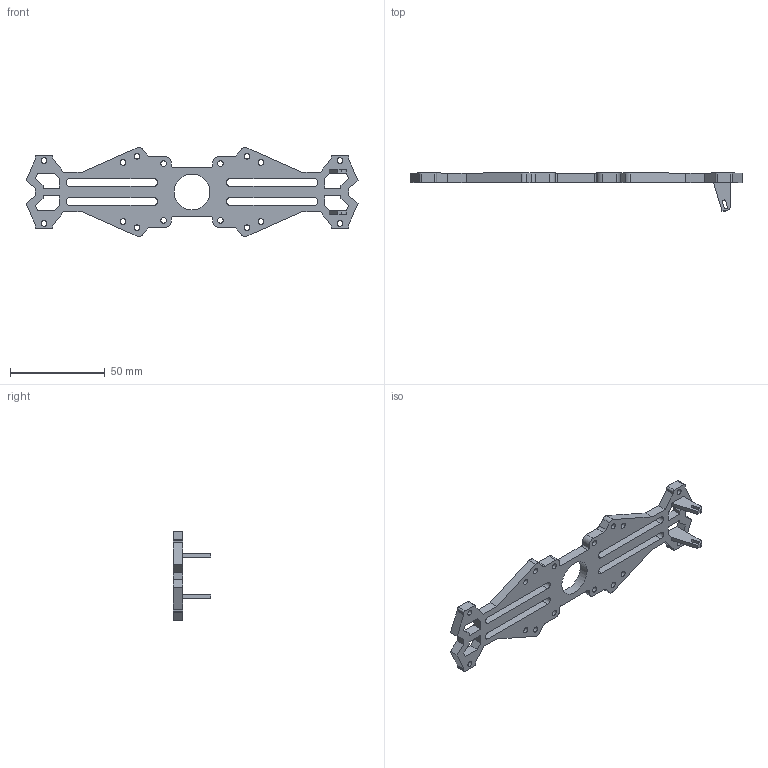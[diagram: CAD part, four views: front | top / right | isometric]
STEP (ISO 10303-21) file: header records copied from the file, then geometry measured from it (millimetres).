
FILE_DESCRIPTION(/* description */ (''),/* implementation_level */ '2;1');
FILE_NAME(/* name */ 'C:/Users/Administrator/Desktop/底座支架.step',/* time_stamp */ '2022-06-02T09:47:05+08:00',/* author */ (''),/* organization */ (''),/* preprocessor_version */ 'ST-DEVELOPER v19',/* originating_system */ 'Autodesk Translation Framework v11.7.0.108',/* authorisation */ '');
FILE_SCHEMA (('AUTOMOTIVE_DESIGN { 1 0 10303 214 3 1 1 }'));
Length unit declared in the file: millimetre
Products named in the file (1): 四旋翼无人机
Bounding box: 175 x 20 x 46.86 mm (x, y, z)
Volume: 20585.8 mm3; surface area: 14774.3 mm2
Topology: 1 solids, 1 shells, 153 faces, 449 edges, 298 vertices
Faces by surface type: plane 98, cylinder 55
Full cylindrical faces by diameter (mm): 3 x16, 18.868 x1
Entity records: 5211 total; most frequent: CARTESIAN_POINT 901, ORIENTED_EDGE 898, DIRECTION 867, EDGE_CURVE 449, LINE 339, VECTOR 339, VERTEX_POINT 298, AXIS2_PLACEMENT_3D 264
